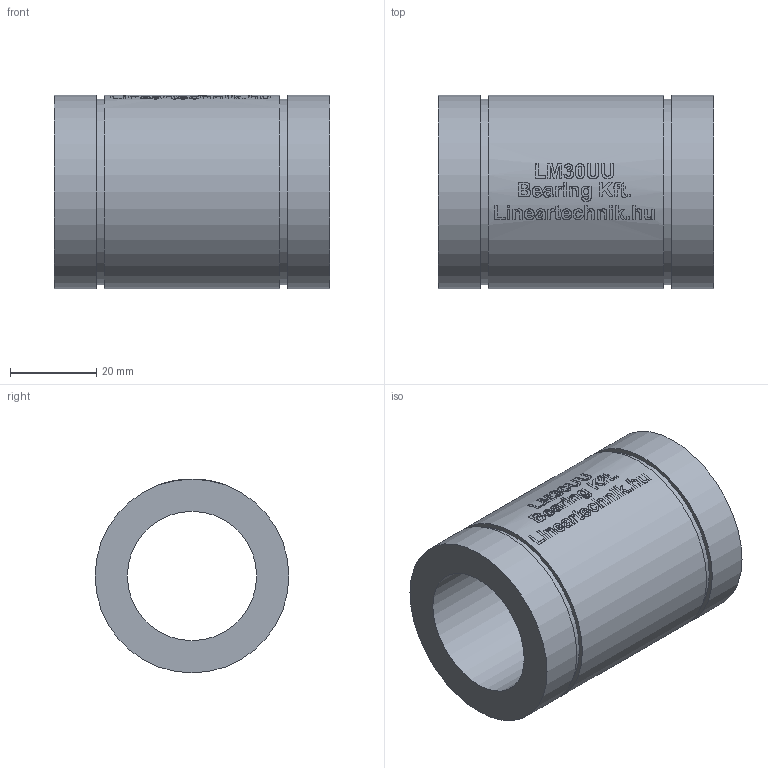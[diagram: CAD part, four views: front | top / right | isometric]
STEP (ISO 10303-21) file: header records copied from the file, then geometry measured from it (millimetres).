
FILE_DESCRIPTION(/* description */ ('Huosing for flange nuts'),/* implementation_level */ '2;1');
FILE_NAME(/* name */ 'LM30UU',/* time_stamp */ '2019-05-07T14:08:13+02:00',/* author */ ('VĂ©gh MĂˇtĂ©'),/* organization */ ('Bearing Kft'),/* preprocessor_version */ 'ST-DEVELOPER v16.7',/* originating_system */ 'DEX',/* authorisation */ $);
FILE_SCHEMA (('AUTOMOTIVE_DESIGN {1 0 10303 214 3 1 1}'));
Length unit declared in the file: millimetre
Products named in the file (1): LM30UU
Bounding box: 64 x 45 x 45 mm (x, y, z)
Volume: 56024.6 mm3; surface area: 17418.7 mm2
Topology: 1 solids, 1 shells, 299 faces, 747 edges, 499 vertices
Faces by surface type: plane 151, bspline 97, cylinder 51
Full cylindrical faces by diameter (mm): 30 x1, 43 x2, 45 x3
Entity records: 18436 total; most frequent: CARTESIAN_POINT 11823, ORIENTED_EDGE 1472, DIRECTION 1081, EDGE_CURVE 736, VERTEX_POINT 497, LINE 401, VECTOR 401, EDGE_LOOP 359
